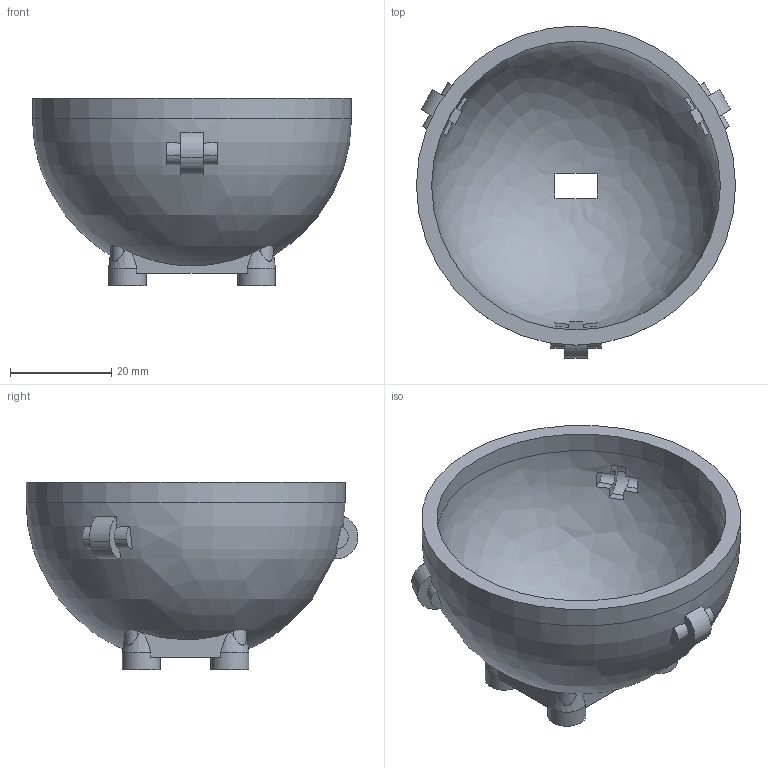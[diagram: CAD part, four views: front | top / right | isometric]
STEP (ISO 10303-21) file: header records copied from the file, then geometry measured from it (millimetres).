
FILE_DESCRIPTION(('Open CASCADE Model'),'2;1');
FILE_NAME('Open CASCADE Shape Model','2026-06-04T07:58:13',('Author'),( 'Open CASCADE'),'Open CASCADE STEP processor 7.6','Open CASCADE 7.6' ,'Unknown');
FILE_SCHEMA(('AP242_MANAGED_MODEL_BASED_3D_ENGINEERING_MIM_LF. {1 0 10303 442 1 1 4 }'));
Length unit declared in the file: millimetre
Products named in the file (1): Open CASCADE STEP translator 7.6 4
Bounding box: 63 x 65.51 x 37.1 mm (x, y, z)
Volume: 20179.5 mm3; surface area: 14850.1 mm2
Topology: 1 solids, 1 shells, 129 faces, 348 edges, 232 vertices
Faces by surface type: plane 65, extrusion 36, cylinder 18, bspline 4, cone 4, revolution 2
Full cylindrical faces by diameter (mm): 3.5 x4, 7.5 x4, 57 x1, 63 x1
Entity records: 19959 total; most frequent: CARTESIAN_POINT 13461, DIRECTION 1040, ORIENTED_EDGE 696, PCURVE 696, DEFINITIONAL_REPRESENTATION 696, VECTOR 506, LINE 470, B_SPLINE_CURVE_WITH_KNOTS 384
